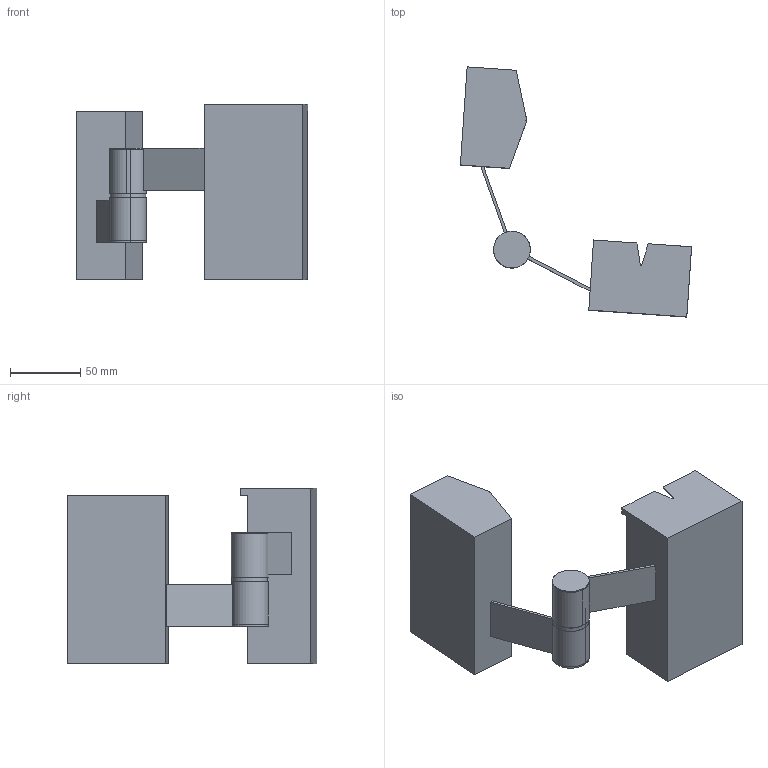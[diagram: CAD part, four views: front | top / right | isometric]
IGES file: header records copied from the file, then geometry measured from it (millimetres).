
Start section: SolidWorks IGES file using analytic representation for surfaces
Global section: file name: C:\Users\nicol\Documents\Cefet\Mecatrônica\Pesquisa Braquiterapia\Desenhos Sold\recarga\Montagem1.IGS; native system: SolidWorks 2016; preprocessor: SolidWorks 2016; author: nicol; date: 180924.132754; units: millimetre
Bounding box: 164.7 x 178.03 x 125 mm (x, y, z)
Surface area: 98057.6 mm2 (no closed solid volume)
Topology: 0 solids, 0 shells, 66 faces, 666 edges, 666 vertices
Faces by surface type: bspline 47, revolution 19
